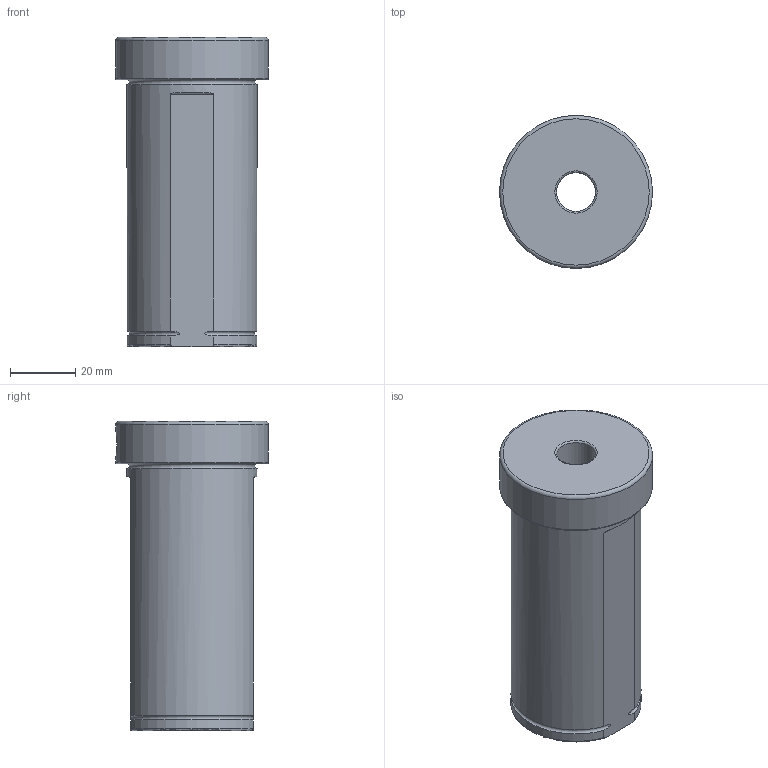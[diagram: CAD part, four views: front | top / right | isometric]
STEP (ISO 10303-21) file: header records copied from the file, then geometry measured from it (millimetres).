
FILE_DESCRIPTION(/* description */ (''),/* implementation_level */ '2;1');
FILE_NAME(/* name */ '',/* time_stamp */ '2025-04-15T13:03:58+03:00',/* author */ ('User'),/* organization */ (''),/* preprocessor_version */ 'ST-DEVELOPER v19.2',/* originating_system */ 'Autodesk Inventor 2024',/* authorisation */ '');
FILE_SCHEMA (('AUTOMOTIVE_DESIGN { 1 0 10303 214 3 1 1 }'));
Length unit declared in the file: millimetre
Products named in the file (1): Втулка переходная 
D40-d6
Bounding box: 47 x 47 x 95 mm (x, y, z)
Volume: 94515 mm3; surface area: 21882.2 mm2
Topology: 1 solids, 1 shells, 69 faces, 159 edges, 106 vertices
Faces by surface type: plane 39, cylinder 18, torus 11, bspline 1
Full cylindrical faces by diameter (mm): 7 x3, 7.2 x3, 8 x3, 12 x1, 24 x1, 26 x1, 40 x1, 47 x1
Entity records: 2341 total; most frequent: CARTESIAN_POINT 633, DIRECTION 339, ORIENTED_EDGE 318, EDGE_CURVE 159, AXIS2_PLACEMENT_3D 128, VERTEX_POINT 106, EDGE_LOOP 85, LINE 83
